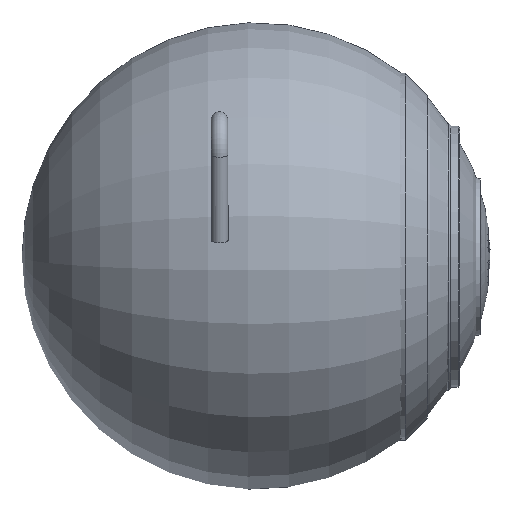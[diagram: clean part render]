
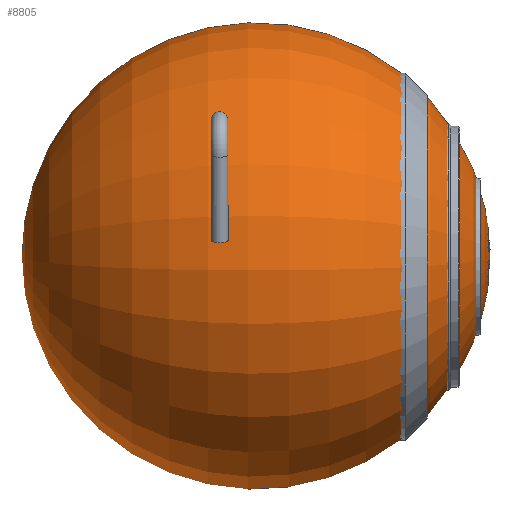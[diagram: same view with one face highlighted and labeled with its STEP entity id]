
A CAD part, left-side view. The second image highlights one B-rep face of the part: STEP entity #8805.
In plain terms, the highlighted toroidal (fillet/blend) face has major radius 0 mm and minor radius 42.1 mm.
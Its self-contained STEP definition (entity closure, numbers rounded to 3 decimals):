
#48=VERTEX_LOOP('',#3486);
#51=DEGENERATE_TOROIDAL_SURFACE('',#9336,0.,42.1,
 .T.);
#593=CIRCLE('',#9337,13.1);
#1531=ORIENTED_EDGE('',*,*,#2774,.T.);
#2774=EDGE_CURVE('',#3487,#3487,#593,.T.);
#3486=VERTEX_POINT('',#12476);
#3487=VERTEX_POINT('',#12478);
#4858=EDGE_LOOP('',(#1531));
#5417=FACE_BOUND('',#48,.T.);
#5418=FACE_BOUND('',#4858,.T.);
#8805=ADVANCED_FACE('',(#5417,#5418),#51,.T.);
#9336=AXIS2_PLACEMENT_3D('',#12475,#10544,#10545);
#9337=AXIS2_PLACEMENT_3D('',#12477,#10546,#10547);
#10544=DIRECTION('',(0.,-1.,0.));
#10545=DIRECTION('',(0.,0.,-1.));
#10546=DIRECTION('',(0.,-1.,0.));
#10547=DIRECTION('',(0.,0.,-1.));
#12475=CARTESIAN_POINT('',(0.,-29.401,0.));
#12476=CARTESIAN_POINT('',(0.,-71.501,0.));
#12477=CARTESIAN_POINT('',(0.,-69.411,0.));
#12478=CARTESIAN_POINT('',(0.,-69.411,-13.1));
